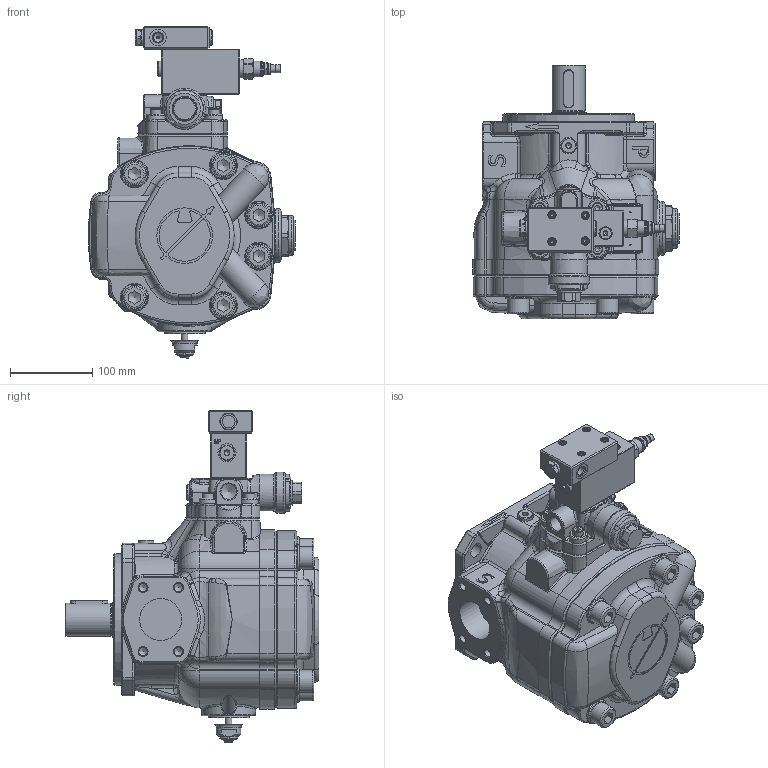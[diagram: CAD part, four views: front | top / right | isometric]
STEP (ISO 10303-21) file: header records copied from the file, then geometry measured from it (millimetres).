
FILE_DESCRIPTION(/* description */ (''),/* implementation_level */ '2;1');
FILE_NAME(/* name */ 'W:\Tecnico\Archivio\Berarma\Dimensioni Pompe\3D Export\Montaggio 3D semplificato\PLP-PHP 3\PHP 3 PCLS001.stp',/* time_stamp */ '2018-10-10T08:39:31+02:00',/* author */ ('marcop'),/* organization */ (''),/* preprocessor_version */ 'ST-DEVELOPER v17',/* originating_system */ 'Autodesk Inventor 2018',/* authorisation */ '');
FILE_SCHEMA (('AUTOMOTIVE_DESIGN { 1 0 10303 214 3 1 1 }'));
Products named in the file (1): PLP-PHP 3_Shrinkwrap_1
Bounding box: 251.18 x 308 x 403.1 mm (x, y, z)
Volume: 7144587.7 mm3; surface area: 569954 mm2
Topology: 2 solids, 2 shells, 2327 faces, 5914 edges, 3656 vertices
Faces by surface type: plane 826, cylinder 529, bspline 460, cone 236, torus 232, sphere 44
Full cylindrical faces by diameter (mm): 1.7 x4, 3 x3, 3.15 x1, 4 x4, 6 x2, 6.5 x1, 7.2 x1, 7.671 x2, 8 x2, 8.376 x4, 8.5 x4, 9 x4, 9.347 x2, 9.5 x1, 10.106 x4, 11.445 x4, 12 x4, 13 x4, 13.487 x1, 13.5 x1, 13.767 x2, 14 x3, 14.63 x1, 15.5 x2, 16 x2, 17.399 x1, 17.5 x1, 17.78 x1, 18 x4, 18.631 x1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
Entity records: 88263 total; most frequent: CARTESIAN_POINT 32599, ORIENTED_EDGE 11658, DIRECTION 10534, EDGE_CURVE 5829, AXIS2_PLACEMENT_3D 4115, VERTEX_POINT 3656, EDGE_LOOP 2487, STYLED_ITEM 2329
